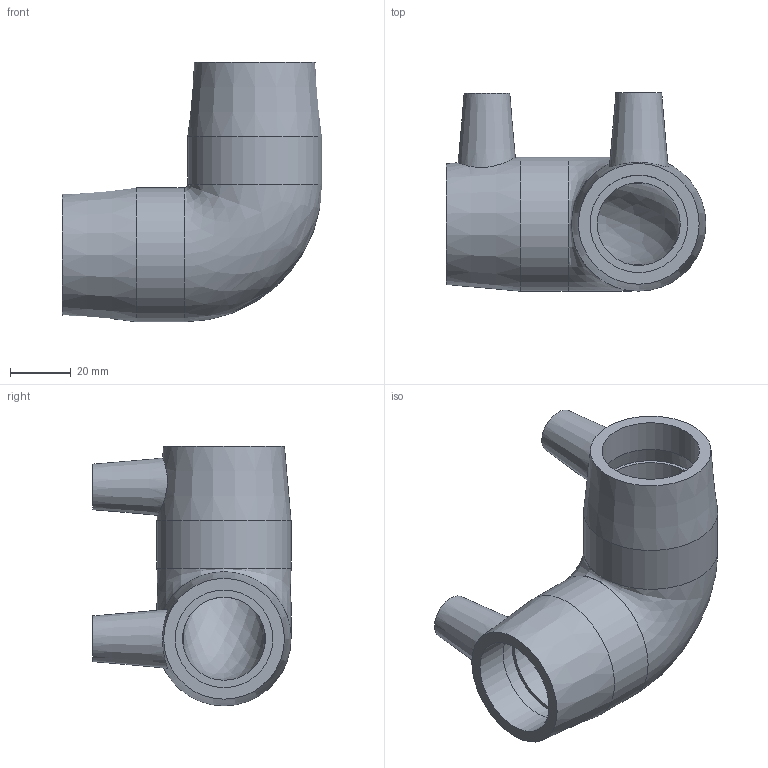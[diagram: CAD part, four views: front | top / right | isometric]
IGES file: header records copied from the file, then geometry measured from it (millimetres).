
Global section: file name: 490504032.ipt; native system: Autodesk Inventor 2015; preprocessor: unknown; author: KIM; date: 20171106.093625; units: millimetre
Bounding box: 85.2 x 65 x 85.2 mm (x, y, z)
Volume: 92071.9 mm3; surface area: 31946.7 mm2
Topology: 1 solids, 1 shells, 30 faces, 67 edges, 47 vertices
Faces by surface type: plane 12, revolution 10, cylinder 4, cone 4
Full cylindrical faces by diameter (mm): 4 x2, 44 x2
